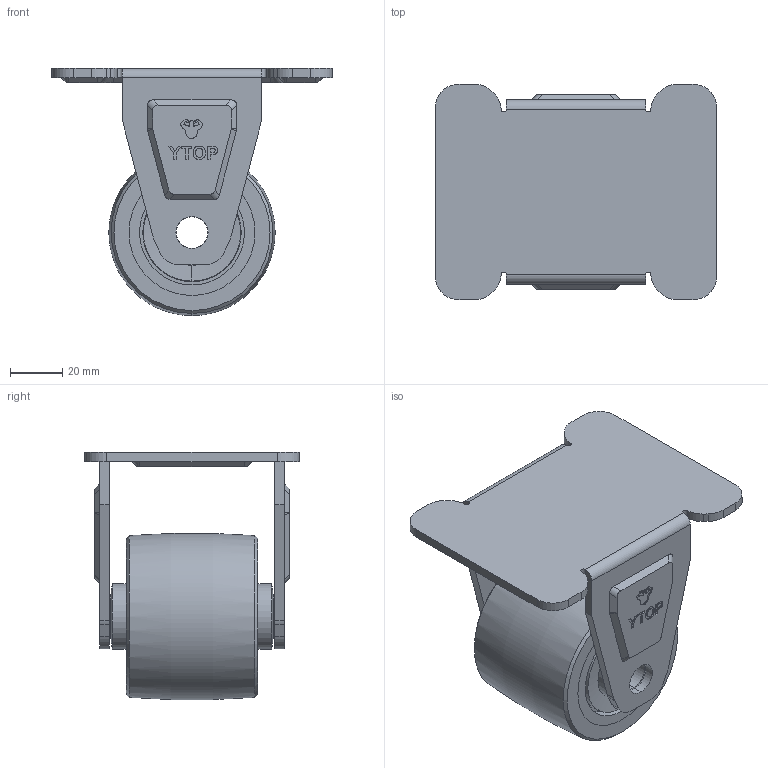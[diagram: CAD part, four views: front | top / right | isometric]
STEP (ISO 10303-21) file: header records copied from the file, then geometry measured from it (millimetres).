
FILE_DESCRIPTION (( 'STEP AP214' ), '1' );
FILE_NAME ('中重型低重心2.5寸固定轮.STEP', '2023-12-29T09:28:24', ( '' ), ( '' ), 'SwSTEP 2.0', 'SolidWorks 2016', '' );
FILE_SCHEMA (( 'AUTOMOTIVE_DESIGN' ));
Length unit declared in the file: millimetre
Products named in the file (1): 中重型低重心2.5寸固定轮
Bounding box: 107 x 82 x 94.18 mm (x, y, z)
Volume: 189687.7 mm3; surface area: 89421.9 mm2
Topology: 8 solids, 8 shells, 738 faces, 2108 edges, 1380 vertices
Faces by surface type: plane 200, bspline 184, sphere 128, cylinder 118, torus 66, cone 42
Entity records: 39245 total; most frequent: CARTESIAN_POINT 13239, ORIENTED_EDGE 4216, DIRECTION 3016, EDGE_CURVE 2108, VERTEX_POINT 1380, AXIS2_PLACEMENT_3D 1165, EDGE_LOOP 814, B_SPLINE_CURVE_WITH_KNOTS 788
